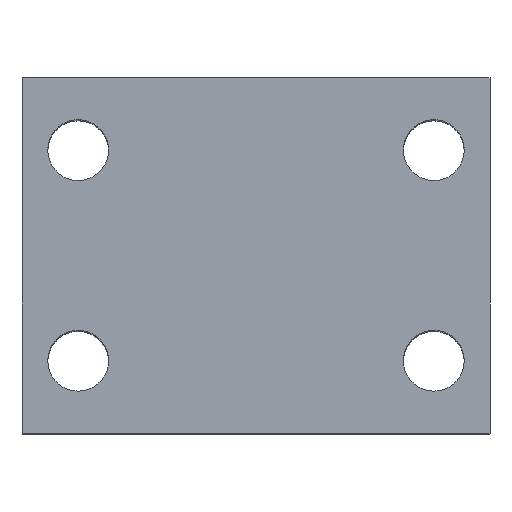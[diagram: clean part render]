
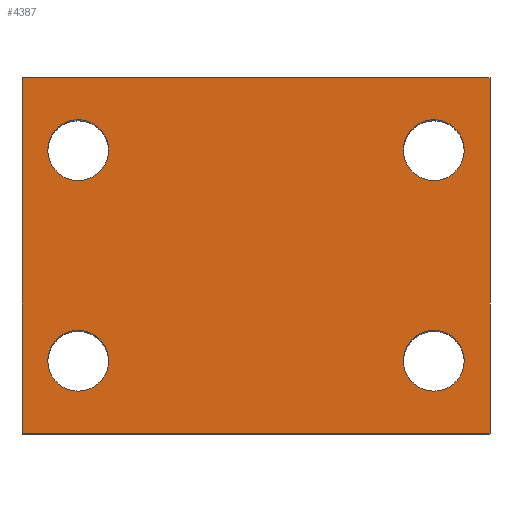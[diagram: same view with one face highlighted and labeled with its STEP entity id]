
A CAD part, top view. The second image highlights one B-rep face of the part: STEP entity #4387.
In plain terms, the highlighted planar face has unit normal (0, 0, 1).
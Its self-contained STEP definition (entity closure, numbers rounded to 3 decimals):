
#22 = VERTEX_POINT ( 'NONE', #2931 ) ;
#55 = CIRCLE ( 'NONE', #168, 6.5 ) ;
#135 = DIRECTION ( 'NONE',  ( -1., 0., 0. ) ) ;
#168 = AXIS2_PLACEMENT_3D ( 'NONE', #1506, #1942, #1909 ) ;
#184 = LINE ( 'NONE', #3937, #537 ) ;
#185 = ORIENTED_EDGE ( 'NONE', *, *, #5545, .T. ) ;
#215 = CIRCLE ( 'NONE', #741, 6.5 ) ;
#362 = VERTEX_POINT ( 'NONE', #8726 ) ;
#396 = AXIS2_PLACEMENT_3D ( 'NONE', #9433, #9194, #9727 ) ;
#442 = AXIS2_PLACEMENT_3D ( 'NONE', #10521, #11457, #6448 ) ;
#537 = VECTOR ( 'NONE', #5749, 1000. ) ;
#716 = EDGE_LOOP ( 'NONE', ( #5251, #4210 ) ) ;
#741 = AXIS2_PLACEMENT_3D ( 'NONE', #7407, #6507, #6422 ) ;
#781 = AXIS2_PLACEMENT_3D ( 'NONE', #9128, #9557, #8443 ) ;
#870 = CIRCLE ( 'NONE', #3019, 6.5 ) ;
#928 = VERTEX_POINT ( 'NONE', #5987 ) ;
#946 = EDGE_LOOP ( 'NONE', ( #1809, #8909 ) ) ;
#1012 = AXIS2_PLACEMENT_3D ( 'NONE', #7415, #2129, #8307 ) ;
#1154 = DIRECTION ( 'NONE',  ( 0., 0., -1. ) ) ;
#1388 = ORIENTED_EDGE ( 'NONE', *, *, #5531, .T. ) ;
#1506 = CARTESIAN_POINT ( 'NONE',  ( -38., 60.5, 72.5 ) ) ;
#1564 = EDGE_CURVE ( 'NONE', #6635, #6273, #5604, .T. ) ;
#1784 = ORIENTED_EDGE ( 'NONE', *, *, #5500, .T. ) ;
#1809 = ORIENTED_EDGE ( 'NONE', *, *, #5533, .T. ) ;
#1823 = EDGE_CURVE ( 'NONE', #9666, #928, #55, .T. ) ;
#1909 = DIRECTION ( 'NONE',  ( -1., 0., 0. ) ) ;
#1942 = DIRECTION ( 'NONE',  ( 0., 0., -1. ) ) ;
#2075 = VERTEX_POINT ( 'NONE', #3583 ) ;
#2098 = CARTESIAN_POINT ( 'NONE',  ( 31.5, 60.5, 72.5 ) ) ;
#2129 = DIRECTION ( 'NONE',  ( 0., 0., -1. ) ) ;
#2642 = FACE_OUTER_BOUND ( 'NONE', #10102, .T. ) ;
#2769 = LINE ( 'NONE', #3049, #5148 ) ;
#2891 = CARTESIAN_POINT ( 'NONE',  ( -50., 76., 72.5 ) ) ;
#2931 = CARTESIAN_POINT ( 'NONE',  ( 50., 0., 72.5 ) ) ;
#2978 = DIRECTION ( 'NONE',  ( 0., -1., 0. ) ) ;
#3018 = CARTESIAN_POINT ( 'NONE',  ( -38., 15.5, 72.5 ) ) ;
#3019 = AXIS2_PLACEMENT_3D ( 'NONE', #3018, #9153, #3900 ) ;
#3049 = CARTESIAN_POINT ( 'NONE',  ( -50., 0., 72.5 ) ) ;
#3583 = CARTESIAN_POINT ( 'NONE',  ( 44.5, 15.5, 72.5 ) ) ;
#3612 = LINE ( 'NONE', #2891, #8012 ) ;
#3784 = EDGE_CURVE ( 'NONE', #11421, #3985, #7740, .T. ) ;
#3839 = EDGE_CURVE ( 'NONE', #2075, #11343, #215, .T. ) ;
#3900 = DIRECTION ( 'NONE',  ( -1., 0., 0. ) ) ;
#3937 = CARTESIAN_POINT ( 'NONE',  ( 50., 76., 72.5 ) ) ;
#3985 = VERTEX_POINT ( 'NONE', #2098 ) ;
#4057 = ORIENTED_EDGE ( 'NONE', *, *, #3839, .T. ) ;
#4210 = ORIENTED_EDGE ( 'NONE', *, *, #3784, .T. ) ;
#4387 = ADVANCED_FACE ( 'NONE', ( #5029, #9595, #5583, #5312, #2642 ), #4598, .F. ) ;
#4598 = PLANE ( 'NONE',  #442 ) ;
#4620 = AXIS2_PLACEMENT_3D ( 'NONE', #6535, #1154, #7387 ) ;
#4815 = DIRECTION ( 'NONE',  ( 1., 0., 0. ) ) ;
#4818 = AXIS2_PLACEMENT_3D ( 'NONE', #10688, #5714, #135 ) ;
#4888 = EDGE_CURVE ( 'NONE', #9095, #362, #3612, .T. ) ;
#4995 = CARTESIAN_POINT ( 'NONE',  ( 31.5, 15.5, 72.5 ) ) ;
#5029 = FACE_BOUND ( 'NONE', #9049, .T. ) ;
#5148 = VECTOR ( 'NONE', #4815, 1000. ) ;
#5251 = ORIENTED_EDGE ( 'NONE', *, *, #5550, .T. ) ;
#5312 = FACE_BOUND ( 'NONE', #716, .T. ) ;
#5428 = CIRCLE ( 'NONE', #1012, 6.5 ) ;
#5500 = EDGE_CURVE ( 'NONE', #9095, #9652, #8264, .T. ) ;
#5531 = EDGE_CURVE ( 'NONE', #928, #9666, #5710, .T. ) ;
#5533 = EDGE_CURVE ( 'NONE', #6273, #6635, #870, .T. ) ;
#5545 = EDGE_CURVE ( 'NONE', #11343, #2075, #7715, .T. ) ;
#5550 = EDGE_CURVE ( 'NONE', #3985, #11421, #5428, .T. ) ;
#5564 = EDGE_CURVE ( 'NONE', #9652, #22, #2769, .T. ) ;
#5568 = EDGE_CURVE ( 'NONE', #362, #22, #184, .T. ) ;
#5583 = FACE_BOUND ( 'NONE', #6955, .T. ) ;
#5604 = CIRCLE ( 'NONE', #396, 6.5 ) ;
#5635 = DIRECTION ( 'NONE',  ( 1., 0., 0. ) ) ;
#5710 = CIRCLE ( 'NONE', #4620, 6.5 ) ;
#5714 = DIRECTION ( 'NONE',  ( 0., 0., -1. ) ) ;
#5749 = DIRECTION ( 'NONE',  ( 0., -1., 0. ) ) ;
#5841 = CARTESIAN_POINT ( 'NONE',  ( -44.5, 15.5, 72.5 ) ) ;
#5987 = CARTESIAN_POINT ( 'NONE',  ( -44.5, 60.5, 72.5 ) ) ;
#6273 = VERTEX_POINT ( 'NONE', #5841 ) ;
#6422 = DIRECTION ( 'NONE',  ( -1., 0., 0. ) ) ;
#6448 = DIRECTION ( 'NONE',  ( -1., 0., 0. ) ) ;
#6507 = DIRECTION ( 'NONE',  ( 0., 0., -1. ) ) ;
#6535 = CARTESIAN_POINT ( 'NONE',  ( -38., 60.5, 72.5 ) ) ;
#6635 = VERTEX_POINT ( 'NONE', #10023 ) ;
#6955 = EDGE_LOOP ( 'NONE', ( #185, #4057 ) ) ;
#7016 = ORIENTED_EDGE ( 'NONE', *, *, #5568, .F. ) ;
#7068 = CARTESIAN_POINT ( 'NONE',  ( -50., 0., 72.5 ) ) ;
#7387 = DIRECTION ( 'NONE',  ( -1., 0., 0. ) ) ;
#7407 = CARTESIAN_POINT ( 'NONE',  ( 38., 15.5, 72.5 ) ) ;
#7415 = CARTESIAN_POINT ( 'NONE',  ( 38., 60.5, 72.5 ) ) ;
#7715 = CIRCLE ( 'NONE', #4818, 6.5 ) ;
#7740 = CIRCLE ( 'NONE', #781, 6.5 ) ;
#7904 = ORIENTED_EDGE ( 'NONE', *, *, #4888, .F. ) ;
#7950 = CARTESIAN_POINT ( 'NONE',  ( -31.5, 60.5, 72.5 ) ) ;
#8001 = VECTOR ( 'NONE', #2978, 1000. ) ;
#8012 = VECTOR ( 'NONE', #5635, 1000. ) ;
#8172 = ORIENTED_EDGE ( 'NONE', *, *, #1823, .T. ) ;
#8229 = CARTESIAN_POINT ( 'NONE',  ( -50., 76., 72.5 ) ) ;
#8264 = LINE ( 'NONE', #8229, #8001 ) ;
#8307 = DIRECTION ( 'NONE',  ( -1., 0., 0. ) ) ;
#8443 = DIRECTION ( 'NONE',  ( -1., 0., 0. ) ) ;
#8726 = CARTESIAN_POINT ( 'NONE',  ( 50., 76., 72.5 ) ) ;
#8909 = ORIENTED_EDGE ( 'NONE', *, *, #1564, .T. ) ;
#9049 = EDGE_LOOP ( 'NONE', ( #1388, #8172 ) ) ;
#9095 = VERTEX_POINT ( 'NONE', #9180 ) ;
#9128 = CARTESIAN_POINT ( 'NONE',  ( 38., 60.5, 72.5 ) ) ;
#9153 = DIRECTION ( 'NONE',  ( 0., 0., -1. ) ) ;
#9180 = CARTESIAN_POINT ( 'NONE',  ( -50., 76., 72.5 ) ) ;
#9194 = DIRECTION ( 'NONE',  ( 0., 0., -1. ) ) ;
#9433 = CARTESIAN_POINT ( 'NONE',  ( -38., 15.5, 72.5 ) ) ;
#9557 = DIRECTION ( 'NONE',  ( 0., 0., -1. ) ) ;
#9595 = FACE_BOUND ( 'NONE', #946, .T. ) ;
#9652 = VERTEX_POINT ( 'NONE', #7068 ) ;
#9666 = VERTEX_POINT ( 'NONE', #7950 ) ;
#9727 = DIRECTION ( 'NONE',  ( -1., 0., 0. ) ) ;
#10023 = CARTESIAN_POINT ( 'NONE',  ( -31.5, 15.5, 72.5 ) ) ;
#10102 = EDGE_LOOP ( 'NONE', ( #10472, #7016, #7904, #1784 ) ) ;
#10208 = CARTESIAN_POINT ( 'NONE',  ( 44.5, 60.5, 72.5 ) ) ;
#10472 = ORIENTED_EDGE ( 'NONE', *, *, #5564, .T. ) ;
#10521 = CARTESIAN_POINT ( 'NONE',  ( -50., 76., 72.5 ) ) ;
#10688 = CARTESIAN_POINT ( 'NONE',  ( 38., 15.5, 72.5 ) ) ;
#11343 = VERTEX_POINT ( 'NONE', #4995 ) ;
#11421 = VERTEX_POINT ( 'NONE', #10208 ) ;
#11457 = DIRECTION ( 'NONE',  ( 0., 0., -1. ) ) ;
